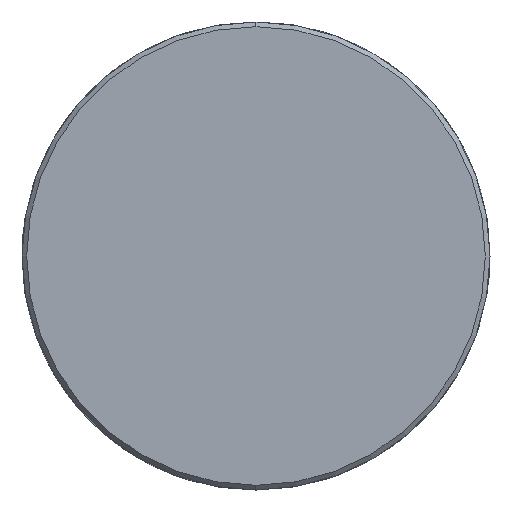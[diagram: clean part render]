
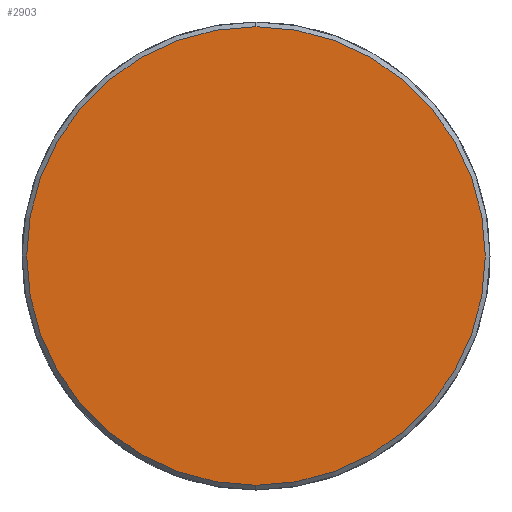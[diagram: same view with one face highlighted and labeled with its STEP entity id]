
A CAD part, left-side view. The second image highlights one B-rep face of the part: STEP entity #2903.
In plain terms, the highlighted planar face has unit normal (-1, 0, 0).
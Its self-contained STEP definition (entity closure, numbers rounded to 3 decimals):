
#757 = EDGE_LOOP ( 'NONE', ( #3573, #3585 ) ) ;
#955 = EDGE_CURVE ( 'NONE', #5265, #5353, #2236, .T. ) ;
#1169 = EDGE_CURVE ( 'NONE', #5353, #5265, #2071, .T. ) ;
#1402 = AXIS2_PLACEMENT_3D ( 'NONE', #3501, #3489, #3486 ) ;
#1927 = CARTESIAN_POINT ( 'NONE',  ( 0., 0., -24.5 ) ) ;
#2071 = CIRCLE ( 'NONE', #1402, 24.5 ) ;
#2236 = CIRCLE ( 'NONE', #5801, 24.5 ) ;
#2364 = AXIS2_PLACEMENT_3D ( 'NONE', #3763, #3745, #3741 ) ;
#2903 = ADVANCED_FACE ( 'NONE', ( #4395 ), #3853, .T. ) ;
#3486 = DIRECTION ( 'NONE',  ( 0., 0., -1. ) ) ;
#3489 = DIRECTION ( 'NONE',  ( 1., 0., 0. ) ) ;
#3501 = CARTESIAN_POINT ( 'NONE',  ( 0., 0., 0. ) ) ;
#3573 = ORIENTED_EDGE ( 'NONE', *, *, #1169, .F. ) ;
#3585 = ORIENTED_EDGE ( 'NONE', *, *, #955, .F. ) ;
#3733 = DIRECTION ( 'NONE',  ( 0., 0., -1. ) ) ;
#3737 = DIRECTION ( 'NONE',  ( 1., 0., 0. ) ) ;
#3741 = DIRECTION ( 'NONE',  ( 0., 0., 1. ) ) ;
#3745 = DIRECTION ( 'NONE',  ( -1., 0., 0. ) ) ;
#3747 = CARTESIAN_POINT ( 'NONE',  ( 0., 0., 0. ) ) ;
#3763 = CARTESIAN_POINT ( 'NONE',  ( 0., 0., 0. ) ) ;
#3853 = PLANE ( 'NONE',  #2364 ) ;
#4395 = FACE_OUTER_BOUND ( 'NONE', #757, .T. ) ;
#4913 = CARTESIAN_POINT ( 'NONE',  ( 0., 0., 24.5 ) ) ;
#5265 = VERTEX_POINT ( 'NONE', #4913 ) ;
#5353 = VERTEX_POINT ( 'NONE', #1927 ) ;
#5801 = AXIS2_PLACEMENT_3D ( 'NONE', #3747, #3737, #3733 ) ;
